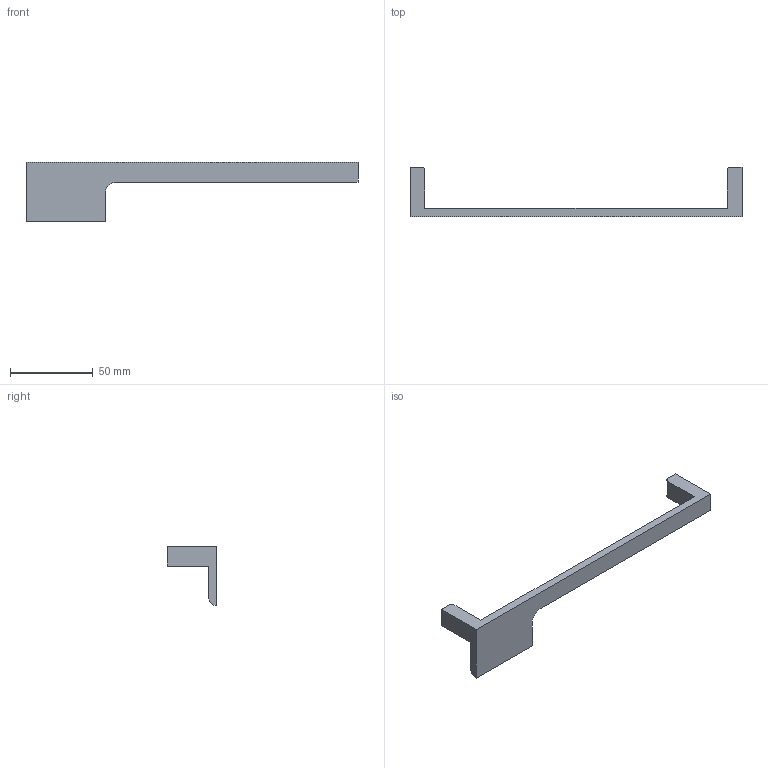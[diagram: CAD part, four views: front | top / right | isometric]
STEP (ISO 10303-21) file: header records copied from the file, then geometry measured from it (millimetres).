
FILE_DESCRIPTION( ( '' ), '1' );
FILE_NAME( 'C:/Documents and Settings/Nikhil/Desktop/Nik/Done/9105747.stp', '2013-10-24T05:37:53', ( '' ), ( '' ), ' ', ' ', ' ' );
FILE_SCHEMA( ( 'automotive_design' ) );
Length unit declared in the file: millimetre
Products named in the file (1): 1
Bounding box: 201 x 30 x 36 mm (x, y, z)
Volume: 22793.4 mm3; surface area: 11667.3 mm2
Topology: 1 solids, 1 shells, 22 faces, 54 edges, 36 vertices
Faces by surface type: plane 14, cylinder 8
Entity records: 1304 total; most frequent: DIRECTION 116, STYLED_ITEM 113, PRESENTATION_STYLE_ASSIGNMENT 113, CARTESIAN_POINT 113, COLOUR_RGB 113, ORIENTED_EDGE 108, EDGE_CURVE 54, CURVE_STYLE 54
